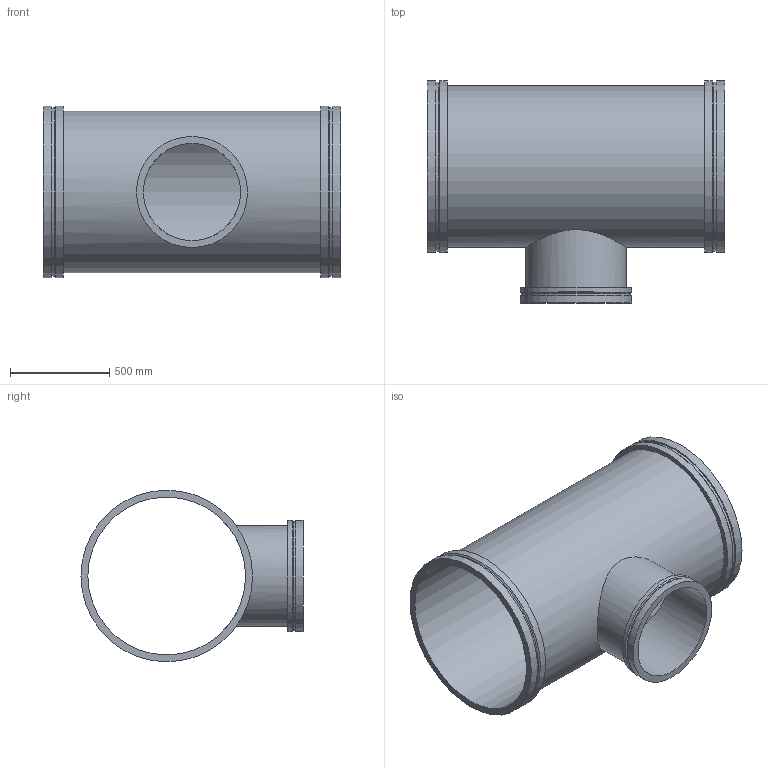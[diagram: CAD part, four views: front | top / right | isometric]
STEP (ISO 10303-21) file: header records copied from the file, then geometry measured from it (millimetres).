
FILE_DESCRIPTION(/* description */ ('VIC REDUCING TEE No W025 VR','CAx-IF Rec.Pracs.---Representation and Presentation of Product Manufacturing Information (PMI)---4.0---2014-10-13'),/* implementation_level */ '2;1');
FILE_NAME(/* name */ 'C:\Users\kkamble\AppData\Roaming\Autodesk\ApplicationPlugins\Back Up\Victaulic_Vic-Ring_Tee Reducing_No W25 VR (AGR)\Victaulic_Vic-Ring_Tee Reducing_No W25 VR (AGR)_32.0x20.0 (800x500).stp',/* time_stamp */ '2020-09-10T11:54:35+05:00',/* author */ ('mchristi'),/* organization */ ('Victaulic'),/* preprocessor_version */ 'ST-DEVELOPER v17.2',/* originating_system */ 'Autodesk Inventor 2019',/* authorisation */ '');
FILE_SCHEMA (('AP242_MANAGED_MODEL_BASED_3D_ENGINEERING_MIM_LF { 1 0 10303 442 1 1 4 }'));
Length unit declared in the file: inch
Products named in the file (1): W25 VR-32.0x20.0
Bounding box: 1498.6 x 1117.6 x 863.6 mm (x, y, z)
Volume: 54970040.6 mm3; surface area: 8703862.7 mm2
Topology: 1 solids, 1 shells, 25 faces, 68 edges, 52 vertices
Faces by surface type: cylinder 13, plane 9, cone 3
Full cylindrical faces by diameter (mm): 488.95 x1, 508 x1, 546.1 x1, 558.8 x2, 793.75 x1, 812.8 x1, 849.122 x2, 863.6 x4
Entity records: 1243 total; most frequent: CARTESIAN_POINT 399, DIRECTION 190, ORIENTED_EDGE 136, AXIS2_PLACEMENT_3D 87, EDGE_CURVE 68, VERTEX_POINT 52, CIRCLE 48, EDGE_LOOP 36
